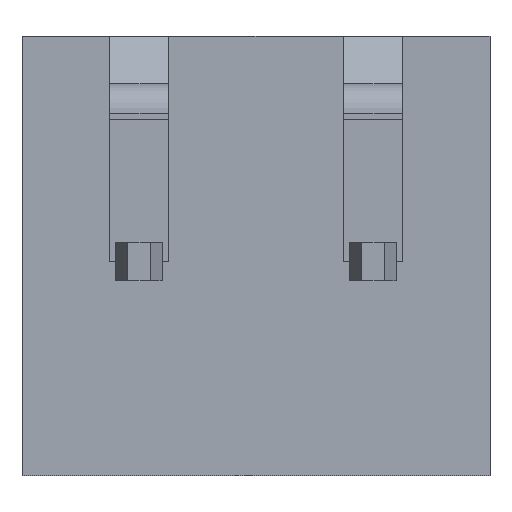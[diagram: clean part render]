
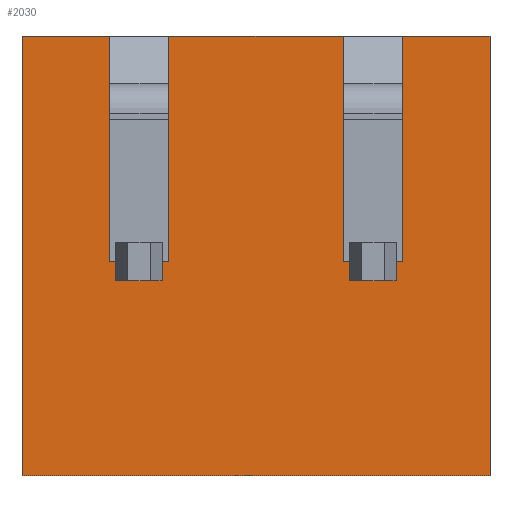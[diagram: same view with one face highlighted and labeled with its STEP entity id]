
A CAD part, front view. The second image highlights one B-rep face of the part: STEP entity #2030.
In plain terms, the highlighted planar face has unit normal (0, -1, 0).
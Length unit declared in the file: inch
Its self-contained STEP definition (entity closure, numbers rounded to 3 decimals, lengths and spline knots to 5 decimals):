
#5=DIRECTION('',(0.,0.,-1.));
#6=VECTOR('',#5,0.37);
#7=CARTESIAN_POINT('',(-0.197,-0.31,0.185));
#8=LINE('',#7,#6);
#237=DIRECTION('',(0.,0.,-1.));
#238=VECTOR('',#237,0.016);
#239=CARTESIAN_POINT('',(0.079,-0.31,-0.005));
#240=LINE('',#239,#238);
#241=DIRECTION('',(1.,0.,0.));
#242=VECTOR('',#241,0.039);
#243=CARTESIAN_POINT('',(0.079,-0.31,-0.021));
#244=LINE('',#243,#242);
#245=DIRECTION('',(0.,0.,1.));
#246=VECTOR('',#245,0.016);
#247=CARTESIAN_POINT('',(0.118,-0.31,-0.021));
#248=LINE('',#247,#246);
#249=DIRECTION('',(1.,0.,0.));
#250=VECTOR('',#249,0.0055);
#251=CARTESIAN_POINT('',(0.118,-0.31,-0.005));
#252=LINE('',#251,#250);
#253=DIRECTION('',(0.,0.,-1.));
#254=VECTOR('',#253,0.19);
#255=CARTESIAN_POINT('',(0.1235,-0.31,0.185));
#256=LINE('',#255,#254);
#257=DIRECTION('',(1.,0.,0.));
#258=VECTOR('',#257,0.0735);
#259=CARTESIAN_POINT('',(0.1235,-0.31,0.185));
#260=LINE('',#259,#258);
#261=DIRECTION('',(1.,0.,0.));
#262=VECTOR('',#261,0.0735);
#263=CARTESIAN_POINT('',(-0.197,-0.31,0.185));
#264=LINE('',#263,#262);
#265=DIRECTION('',(0.,0.,-1.));
#266=VECTOR('',#265,0.19);
#267=CARTESIAN_POINT('',(-0.1235,-0.31,0.185));
#268=LINE('',#267,#266);
#269=DIRECTION('',(1.,0.,0.));
#270=VECTOR('',#269,0.0055);
#271=CARTESIAN_POINT('',(-0.1235,-0.31,-0.005));
#272=LINE('',#271,#270);
#273=DIRECTION('',(0.,0.,-1.));
#274=VECTOR('',#273,0.016);
#275=CARTESIAN_POINT('',(-0.118,-0.31,-0.005));
#276=LINE('',#275,#274);
#277=DIRECTION('',(1.,0.,0.));
#278=VECTOR('',#277,0.039);
#279=CARTESIAN_POINT('',(-0.118,-0.31,-0.021));
#280=LINE('',#279,#278);
#281=DIRECTION('',(0.,0.,1.));
#282=VECTOR('',#281,0.016);
#283=CARTESIAN_POINT('',(-0.079,-0.31,-0.021));
#284=LINE('',#283,#282);
#285=DIRECTION('',(1.,0.,0.));
#286=VECTOR('',#285,0.0055);
#287=CARTESIAN_POINT('',(-0.079,-0.31,-0.005));
#288=LINE('',#287,#286);
#289=DIRECTION('',(0.,0.,-1.));
#290=VECTOR('',#289,0.19);
#291=CARTESIAN_POINT('',(-0.0735,-0.31,0.185));
#292=LINE('',#291,#290);
#293=DIRECTION('',(1.,0.,0.));
#294=VECTOR('',#293,0.147);
#295=CARTESIAN_POINT('',(-0.0735,-0.31,0.185));
#296=LINE('',#295,#294);
#297=DIRECTION('',(0.,0.,-1.));
#298=VECTOR('',#297,0.19);
#299=CARTESIAN_POINT('',(0.0735,-0.31,0.185));
#300=LINE('',#299,#298);
#301=DIRECTION('',(1.,0.,0.));
#302=VECTOR('',#301,0.0055);
#303=CARTESIAN_POINT('',(0.0735,-0.31,-0.005));
#304=LINE('',#303,#302);
#473=DIRECTION('',(0.,0.,-1.));
#474=VECTOR('',#473,0.37);
#475=CARTESIAN_POINT('',(0.197,-0.31,0.185));
#476=LINE('',#475,#474);
#509=DIRECTION('',(1.,0.,0.));
#510=VECTOR('',#509,0.394);
#511=CARTESIAN_POINT('',(-0.197,-0.31,-0.185));
#512=LINE('',#511,#510);
#1318=CARTESIAN_POINT('',(-0.197,-0.31,0.185));
#1320=VERTEX_POINT('',#1318);
#1321=CARTESIAN_POINT('',(-0.197,-0.31,-0.185));
#1322=VERTEX_POINT('',#1321);
#1330=CARTESIAN_POINT('',(0.197,-0.31,0.185));
#1332=VERTEX_POINT('',#1330);
#1333=CARTESIAN_POINT('',(0.197,-0.31,-0.185));
#1334=VERTEX_POINT('',#1333);
#1365=CARTESIAN_POINT('',(-0.118,-0.31,-0.005));
#1366=CARTESIAN_POINT('',(-0.118,-0.31,-0.021));
#1367=VERTEX_POINT('',#1365);
#1368=VERTEX_POINT('',#1366);
#1369=CARTESIAN_POINT('',(-0.079,-0.31,-0.021));
#1370=VERTEX_POINT('',#1369);
#1371=CARTESIAN_POINT('',(-0.079,-0.31,-0.005));
#1372=VERTEX_POINT('',#1371);
#1443=CARTESIAN_POINT('',(-0.1235,-0.31,0.185));
#1445=VERTEX_POINT('',#1443);
#1447=CARTESIAN_POINT('',(-0.0735,-0.31,0.185));
#1449=VERTEX_POINT('',#1447);
#1451=CARTESIAN_POINT('',(-0.1235,-0.31,-0.005));
#1452=VERTEX_POINT('',#1451);
#1453=CARTESIAN_POINT('',(-0.0735,-0.31,-0.005));
#1454=VERTEX_POINT('',#1453);
#1584=CARTESIAN_POINT('',(0.0735,-0.31,-0.005));
#1586=VERTEX_POINT('',#1584);
#1587=CARTESIAN_POINT('',(0.1235,-0.31,-0.005));
#1589=VERTEX_POINT('',#1587);
#1645=CARTESIAN_POINT('',(0.0735,-0.31,0.185));
#1647=VERTEX_POINT('',#1645);
#1649=CARTESIAN_POINT('',(0.1235,-0.31,0.185));
#1651=VERTEX_POINT('',#1649);
#1653=CARTESIAN_POINT('',(0.079,-0.31,-0.005));
#1654=CARTESIAN_POINT('',(0.079,-0.31,-0.021));
#1655=VERTEX_POINT('',#1653);
#1656=VERTEX_POINT('',#1654);
#1657=CARTESIAN_POINT('',(0.118,-0.31,-0.021));
#1658=VERTEX_POINT('',#1657);
#1659=CARTESIAN_POINT('',(0.118,-0.31,-0.005));
#1660=VERTEX_POINT('',#1659);
#1993=CARTESIAN_POINT('',(-0.197,-0.31,0.185));
#1994=DIRECTION('',(0.,-1.,0.));
#1995=DIRECTION('',(0.,0.,-1.));
#1996=AXIS2_PLACEMENT_3D('',#1993,#1994,#1995);
#1997=PLANE('',#1996);
#1998=ORIENTED_EDGE('',*,*,#1893,.T.);
#1999=ORIENTED_EDGE('',*,*,#1987,.T.);
#2000=ORIENTED_EDGE('',*,*,#1958,.T.);
#2001=ORIENTED_EDGE('',*,*,#1807,.T.);
#2003=ORIENTED_EDGE('',*,*,#2002,.F.);
#2004=ORIENTED_EDGE('',*,*,#1735,.T.);
#2006=ORIENTED_EDGE('',*,*,#2005,.T.);
#2008=ORIENTED_EDGE('',*,*,#2007,.F.);
#2009=ORIENTED_EDGE('',*,*,#1692,.F.);
#2010=ORIENTED_EDGE('',*,*,#1728,.T.);
#2012=ORIENTED_EDGE('',*,*,#2011,.T.);
#2014=ORIENTED_EDGE('',*,*,#2013,.T.);
#2016=ORIENTED_EDGE('',*,*,#2015,.T.);
#2018=ORIENTED_EDGE('',*,*,#2017,.T.);
#2020=ORIENTED_EDGE('',*,*,#2019,.T.);
#2022=ORIENTED_EDGE('',*,*,#2021,.T.);
#2024=ORIENTED_EDGE('',*,*,#2023,.F.);
#2025=ORIENTED_EDGE('',*,*,#1712,.T.);
#2026=ORIENTED_EDGE('',*,*,#1759,.T.);
#2027=ORIENTED_EDGE('',*,*,#1788,.T.);
#2028=EDGE_LOOP('',(#1998,#1999,#2000,#2001,#2003,#2004,#2006,#2008,#2009,#2010,
#2012,#2014,#2016,#2018,#2020,#2022,#2024,#2025,#2026,#2027));
#2029=FACE_OUTER_BOUND('',#2028,.F.);
#2030=ADVANCED_FACE('',(#2029),#1997,.T.);
#1692=EDGE_CURVE('',#1320,#1322,#8,.T.);
#1712=EDGE_CURVE('',#1449,#1647,#296,.T.);
#1728=EDGE_CURVE('',#1320,#1445,#264,.T.);
#1735=EDGE_CURVE('',#1651,#1332,#260,.T.);
#1759=EDGE_CURVE('',#1647,#1586,#300,.T.);
#1788=EDGE_CURVE('',#1586,#1655,#304,.T.);
#1807=EDGE_CURVE('',#1660,#1589,#252,.T.);
#1893=EDGE_CURVE('',#1655,#1656,#240,.T.);
#1958=EDGE_CURVE('',#1658,#1660,#248,.T.);
#1987=EDGE_CURVE('',#1656,#1658,#244,.T.);
#2002=EDGE_CURVE('',#1651,#1589,#256,.T.);
#2005=EDGE_CURVE('',#1332,#1334,#476,.T.);
#2007=EDGE_CURVE('',#1322,#1334,#512,.T.);
#2011=EDGE_CURVE('',#1445,#1452,#268,.T.);
#2013=EDGE_CURVE('',#1452,#1367,#272,.T.);
#2015=EDGE_CURVE('',#1367,#1368,#276,.T.);
#2017=EDGE_CURVE('',#1368,#1370,#280,.T.);
#2019=EDGE_CURVE('',#1370,#1372,#284,.T.);
#2021=EDGE_CURVE('',#1372,#1454,#288,.T.);
#2023=EDGE_CURVE('',#1449,#1454,#292,.T.);
